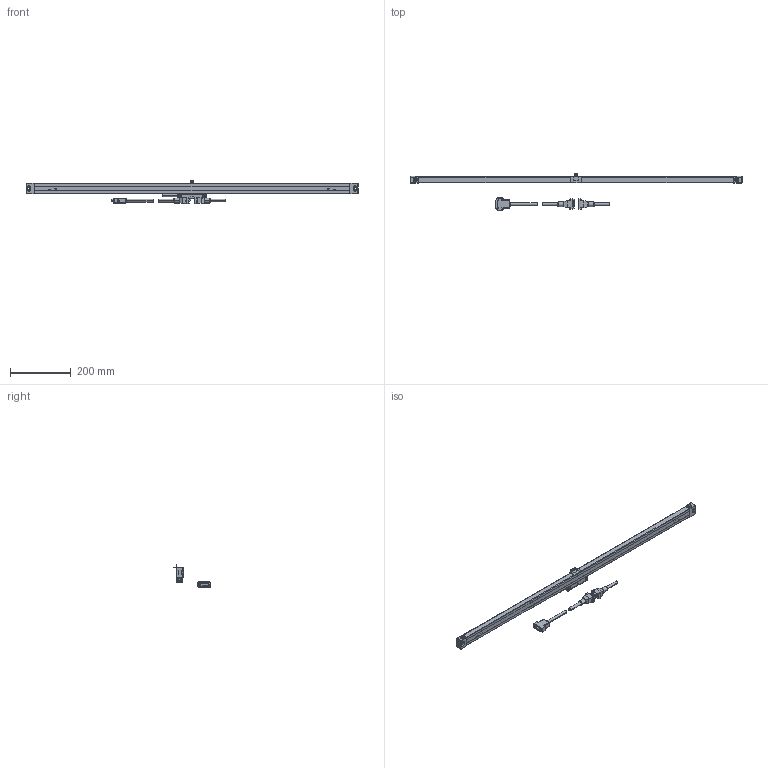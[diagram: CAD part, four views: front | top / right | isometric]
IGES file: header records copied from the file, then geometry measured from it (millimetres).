
Start section: Elysium IGES Interface
Global section: file name: 73H\\Utsu119s\kiyo_cad\data\3D\AT211\HP掲載用_201803\両端固定\AT211-900B.igs; native system: Creo Elements/Direct Modeling 18.1B  29-Sep-2012; preprocessor: Creo Element/Direct IGES_3D V2.2; author: Unknown; organization: Unknown; date: 20180315.114216; units: millimetre
Bounding box: 1096 x 121.19 x 75.93 mm (x, y, z)
Volume: 1470264.2 mm3; surface area: 297813.1 mm2
Topology: 6 solids, 14 shells, 1398 faces, 3439 edges, 2090 vertices
Faces by surface type: bspline 1398
